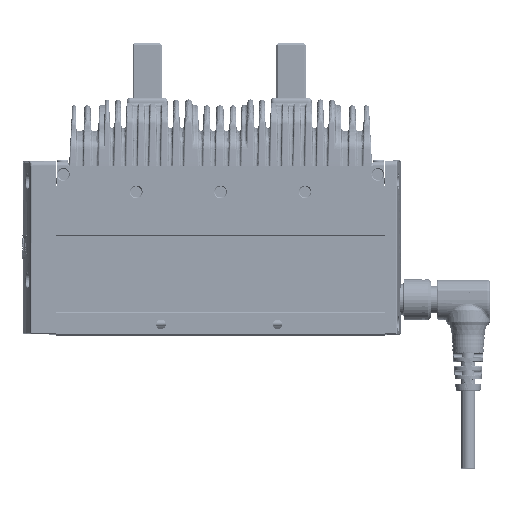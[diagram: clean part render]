
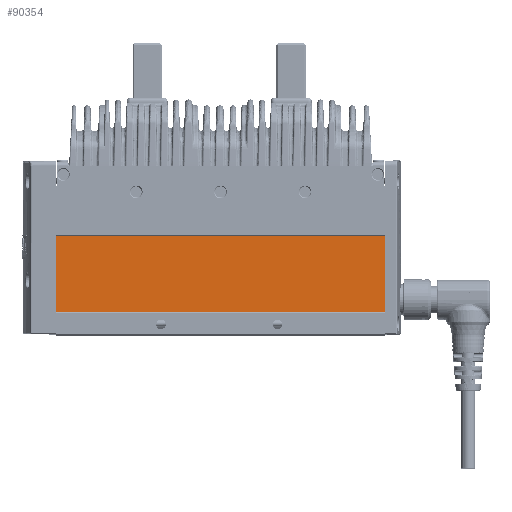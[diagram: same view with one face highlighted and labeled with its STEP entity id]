
A CAD part, top view. The second image highlights one B-rep face of the part: STEP entity #90354.
In plain terms, the highlighted planar face has unit normal (0, 0, 1).
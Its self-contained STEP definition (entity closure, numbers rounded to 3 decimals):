
#10542=PLANE('',#99040);
#15104=FACE_OUTER_BOUND('',#20465,.T.);
#20465=EDGE_LOOP('',(#78442,#78443,#78444,#78445));
#25189=LINE('',#220702,#30332);
#25215=LINE('',#220833,#30358);
#25238=LINE('',#220877,#30381);
#25239=LINE('',#220879,#30382);
#30332=VECTOR('',#118849,1000.);
#30358=VECTOR('',#118995,1000.);
#30381=VECTOR('',#119028,1000.);
#30382=VECTOR('',#119031,1000.);
#42905=VERTEX_POINT('',#220699);
#42906=VERTEX_POINT('',#220701);
#42950=VERTEX_POINT('',#220830);
#42951=VERTEX_POINT('',#220832);
#55151=EDGE_CURVE('',#42906,#42905,#25189,.T.);
#55217=EDGE_CURVE('',#42950,#42951,#25215,.T.);
#55240=EDGE_CURVE('',#42950,#42906,#25238,.T.);
#55241=EDGE_CURVE('',#42951,#42905,#25239,.T.);
#78442=ORIENTED_EDGE('',*,*,#55151,.T.);
#78443=ORIENTED_EDGE('',*,*,#55241,.F.);
#78444=ORIENTED_EDGE('',*,*,#55217,.F.);
#78445=ORIENTED_EDGE('',*,*,#55240,.T.);
#90354=ADVANCED_FACE('',(#15104),#10542,.F.);
#99040=AXIS2_PLACEMENT_3D('',#220878,#119029,#119030);
#118849=DIRECTION('',(0.,-1.,0.));
#118995=DIRECTION('',(0.,-1.,0.));
#119028=DIRECTION('',(-1.,0.,0.));
#119029=DIRECTION('center_axis',(0.,0.,
-1.));
#119030=DIRECTION('ref_axis',(0.,1.,0.));
#119031=DIRECTION('',(-1.,0.,0.));
#220699=CARTESIAN_POINT('',(-56.,8.122,16.2));
#220701=CARTESIAN_POINT('',(-56.,34.45,16.2));
#220702=CARTESIAN_POINT('',(-56.,34.45,16.2));
#220830=CARTESIAN_POINT('',(57.,34.45,16.2));
#220832=CARTESIAN_POINT('',(57.,8.122,16.2));
#220833=CARTESIAN_POINT('',(57.,34.45,16.2));
#220877=CARTESIAN_POINT('',(57.,34.45,16.2));
#220878=CARTESIAN_POINT('Origin',(57.,34.45,16.2));
#220879=CARTESIAN_POINT('',(57.,8.122,16.2));
